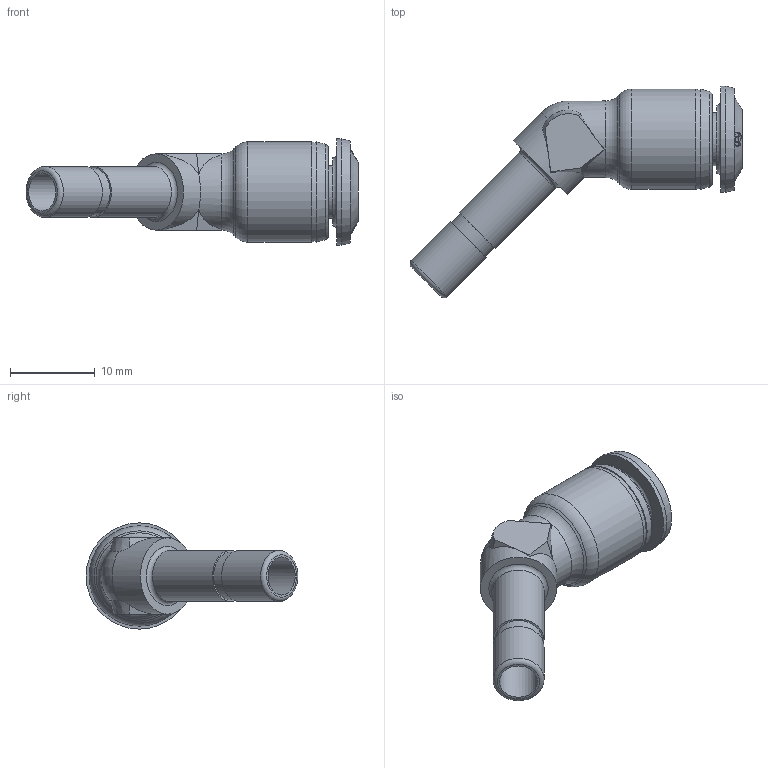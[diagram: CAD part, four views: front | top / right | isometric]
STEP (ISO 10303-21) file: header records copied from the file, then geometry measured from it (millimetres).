
FILE_DESCRIPTION (( 'STEP AP214' ), '1' );
FILE_NAME ('5516000005A.STEP', '2013-10-14T15:24:21', ( 'ST01' ), ( '' ), 'SwSTEP 2.0', 'SolidWorks 2012', '' );
FILE_SCHEMA (( 'AUTOMOTIVE_DESIGN' ));
Length unit declared in the file: millimetre
Products named in the file (1): 5516000005A
Bounding box: 39.07 x 24.92 x 12.5 mm (x, y, z)
Surface area: 1894.8 mm2 (no closed solid volume)
Topology: 0 solids, 3 shells, 99 faces, 255 edges, 166 vertices
Faces by surface type: bspline 44, plane 22, cone 17, cylinder 9, torus 6, sphere 1
Full cylindrical faces by diameter (mm): 4.5 x1, 5.6 x1, 6 x2, 6.2 x1, 9 x2, 11.8 x1, 12.5 x1
Entity records: 6759 total; most frequent: CARTESIAN_POINT 3884, ORIENTED_EDGE 423, EDGE_CURVE 221, DIRECTION 202, VERTEX_POINT 157, B_SPLINE_CURVE_WITH_KNOTS 150, EDGE_LOOP 133, FACE_OUTER_BOUND 112
